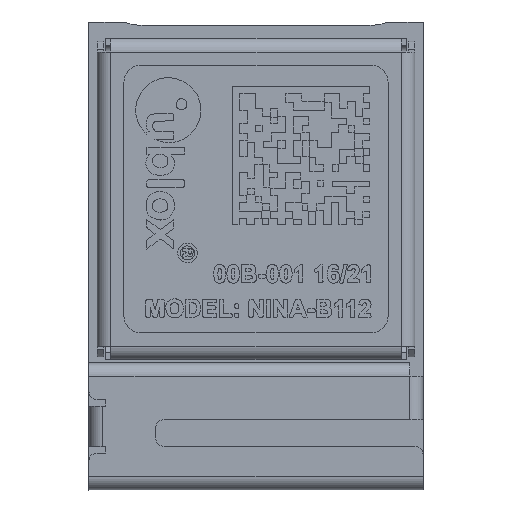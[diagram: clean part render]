
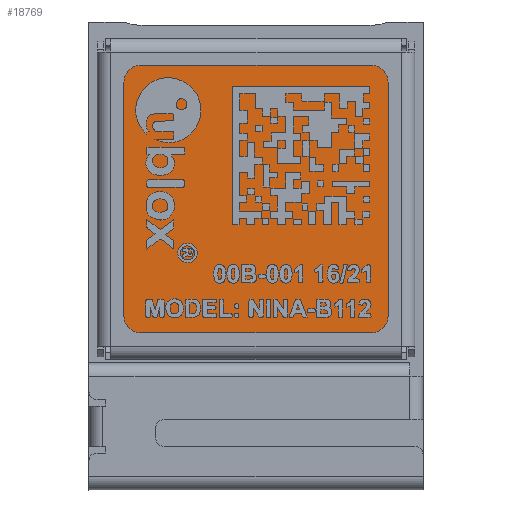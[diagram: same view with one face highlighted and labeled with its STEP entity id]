
A CAD part, top view. The second image highlights one B-rep face of the part: STEP entity #18769.
In plain terms, the highlighted planar face has unit normal (0, 0, 1) as drawn and (0, 1, 0) by its records, which use the part's own axes.
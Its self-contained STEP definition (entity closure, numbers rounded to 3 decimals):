
#1644=FACE_OUTER_BOUND('',#2797,.T.);
#2797=EDGE_LOOP('',(#14125,#14126,#14127,#14128,#14129,#14130,#14131,#14132));
#3622=CIRCLE('',#20181,0.5);
#3623=CIRCLE('',#20184,0.5);
#3624=CIRCLE('',#20187,0.5);
#3625=CIRCLE('',#20190,0.5);
#4519=LINE('',#26918,#6546);
#4522=LINE('',#26926,#6549);
#4525=LINE('',#26934,#6552);
#4528=LINE('',#26941,#6555);
#6546=VECTOR('',#22717,1.);
#6549=VECTOR('',#22726,1.);
#6552=VECTOR('',#22735,1.);
#6555=VECTOR('',#22744,1.);
#8318=VERTEX_POINT('',#26911);
#8319=VERTEX_POINT('',#26913);
#8320=VERTEX_POINT('',#26917);
#8321=VERTEX_POINT('',#26921);
#8322=VERTEX_POINT('',#26925);
#8323=VERTEX_POINT('',#26929);
#8324=VERTEX_POINT('',#26933);
#8325=VERTEX_POINT('',#26937);
#10432=EDGE_CURVE('',#8319,#8318,#3622,.T.);
#10434=EDGE_CURVE('',#8320,#8319,#4519,.T.);
#10436=EDGE_CURVE('',#8321,#8320,#3623,.T.);
#10438=EDGE_CURVE('',#8322,#8321,#4522,.T.);
#10440=EDGE_CURVE('',#8323,#8322,#3624,.T.);
#10442=EDGE_CURVE('',#8324,#8323,#4525,.T.);
#10444=EDGE_CURVE('',#8325,#8324,#3625,.T.);
#10446=EDGE_CURVE('',#8318,#8325,#4528,.T.);
#14125=ORIENTED_EDGE('',*,*,#10446,.T.);
#14126=ORIENTED_EDGE('',*,*,#10444,.T.);
#14127=ORIENTED_EDGE('',*,*,#10442,.T.);
#14128=ORIENTED_EDGE('',*,*,#10440,.T.);
#14129=ORIENTED_EDGE('',*,*,#10438,.T.);
#14130=ORIENTED_EDGE('',*,*,#10436,.T.);
#14131=ORIENTED_EDGE('',*,*,#10434,.T.);
#14132=ORIENTED_EDGE('',*,*,#10432,.T.);
#17885=PLANE('',#20192);
#18769=ADVANCED_FACE('',(#1644),#17885,.T.);
#20181=AXIS2_PLACEMENT_3D('',#26914,#22712,#22713);
#20184=AXIS2_PLACEMENT_3D('',#26922,#22721,#22722);
#20187=AXIS2_PLACEMENT_3D('',#26930,#22730,#22731);
#20190=AXIS2_PLACEMENT_3D('',#26938,#22739,#22740);
#20192=AXIS2_PLACEMENT_3D('',#26942,#22745,#22746);
#22712=DIRECTION('center_axis',(0.,1.,0.));
#22713=DIRECTION('ref_axis',(0.,0.,
1.));
#22717=DIRECTION('',(-1.,0.,0.));
#22721=DIRECTION('center_axis',(0.,1.,0.));
#22722=DIRECTION('ref_axis',(-1.,0.,0.));
#22726=DIRECTION('',(0.,0.,-1.));
#22730=DIRECTION('center_axis',(0.,1.,0.));
#22731=DIRECTION('ref_axis',(0.,0.,
-1.));
#22735=DIRECTION('',(1.,0.,0.));
#22739=DIRECTION('center_axis',(0.,1.,0.));
#22740=DIRECTION('ref_axis',(1.,0.,0.));
#22744=DIRECTION('',(0.,0.,1.));
#22745=DIRECTION('center_axis',(0.,1.,0.));
#22746=DIRECTION('ref_axis',(0.,0.,
1.));
#26911=CARTESIAN_POINT('',(94.399,-9.495,-19.9));
#26913=CARTESIAN_POINT('',(94.899,-9.495,-20.4));
#26914=CARTESIAN_POINT('Origin',(94.899,-9.495,-19.9));
#26917=CARTESIAN_POINT('',(101.799,-9.495,-20.4));
#26918=CARTESIAN_POINT('',(94.899,-9.495,-20.4));
#26921=CARTESIAN_POINT('',(102.299,-9.495,-19.9));
#26922=CARTESIAN_POINT('Origin',(101.799,-9.495,-19.9));
#26925=CARTESIAN_POINT('',(102.299,-9.495,-12.9));
#26926=CARTESIAN_POINT('',(102.299,-9.495,-19.9));
#26929=CARTESIAN_POINT('',(101.799,-9.495,-12.4));
#26930=CARTESIAN_POINT('Origin',(101.799,-9.495,-12.9));
#26933=CARTESIAN_POINT('',(94.899,-9.495,-12.4));
#26934=CARTESIAN_POINT('',(101.799,-9.495,-12.4));
#26937=CARTESIAN_POINT('',(94.399,-9.495,-12.9));
#26938=CARTESIAN_POINT('Origin',(94.899,-9.495,-12.9));
#26941=CARTESIAN_POINT('',(94.399,-9.495,-12.9));
#26942=CARTESIAN_POINT('Origin',(98.349,-9.495,-16.4));
